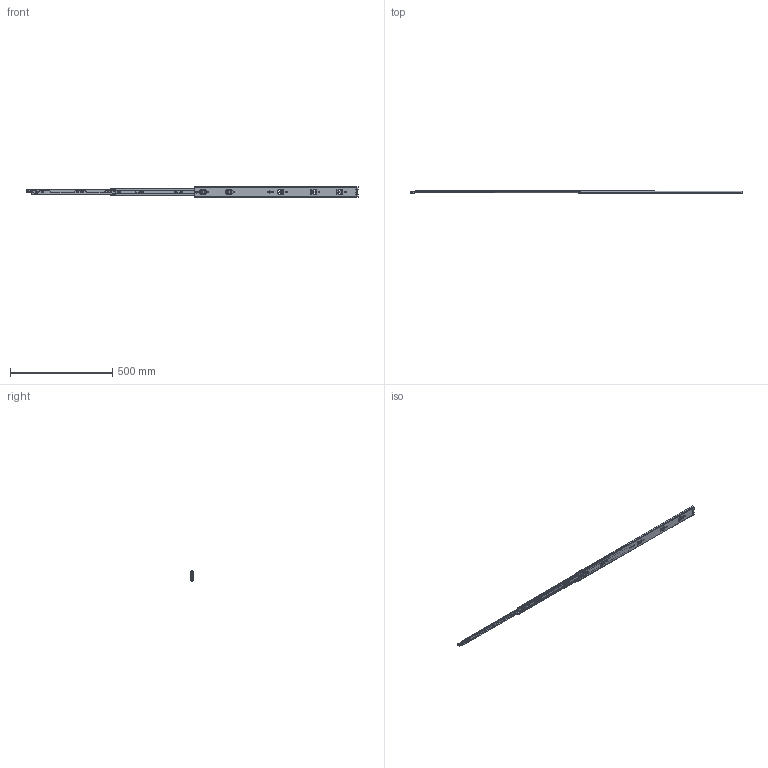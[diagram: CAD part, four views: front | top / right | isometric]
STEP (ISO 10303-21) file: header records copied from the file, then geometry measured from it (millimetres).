
FILE_DESCRIPTION((''),'2;1');
FILE_NAME('KP-50-3S-32YOU_ASM','2023-04-28T',('jishu015'),(''),'PRO/ENGINEER BY PARAMETRIC TECHNOLOGY CORPORATION, 2010280','PRO/ENGINEER BY PARAMETRIC TECHNOLOGY CORPORATION, 2010280','');
FILE_SCHEMA(('CONFIG_CONTROL_DESIGN'));
Products named in the file (19): KP-50-01WAIKE18112___; KP-50-01ZHONGGIU20_____; ZHONGGUIPEIJIAN21___; 50BAIKO12___; KP-53-01ZHONGGUI-1854_______ASM; KP-50-01ZHUJIA-16GE43______; 4-76GANZHU21___; KP-50-01ZHUJIA-16GE23_______ASM; KP-50-01NEIGUI121___; YH1050BANJI12___; PIAN12___; JIAO12___; DAOPIAN21___; ZOU-121___; KP53-0NEIGUI21____ASM; 50ZHUTIAO21___; 50ZHUTIAO21____ASM; CHANGGUI1045WEIJIAO232____; KP-50-3S-32YOU_ASM
Assembly tree (92 placements, depth 3):
  KP-50-3S-32YOU_ASM
    KP-50-01WAIKE18112___
    KP-53-01ZHONGGUI-1854_______ASM
      KP-50-01ZHONGGIU20_____
      ZHONGGUIPEIJIAN21___
      50BAIKO12___
    KP-50-01ZHUJIA-16GE23_______ASM
      KP-50-01ZHUJIA-16GE43______
      4-76GANZHU21___  x60
    KP53-0NEIGUI21____ASM
      KP-50-01NEIGUI121___
      YH1050BANJI12___
      PIAN12___
      JIAO12___
      DAOPIAN21___
      ZOU-121___
    50ZHUTIAO21____ASM  x2
      50ZHUTIAO21___
      4-76GANZHU21___
    CHANGGUI1045WEIJIAO232____
Bounding box: 1625.3 x 13 x 50 mm (x, y, z)
Volume: 240424.7 mm3; surface area: 317792.3 mm2
Topology: 102 solids, 103 shells, 2507 faces, 7358 edges, 4516 vertices
Faces by surface type: cylinder 1114, plane 978, sphere 178, bspline 175, torus 25, extrusion 23, cone 14
Entity records: 82898 total; most frequent: CARTESIAN_POINT 21656, ORIENTED_EDGE 13108, DIRECTION 12572, EDGE_CURVE 6556, AXIS2_PLACEMENT_3D 4280, VERTEX_POINT 4158, VECTOR 4012, LINE 3989
